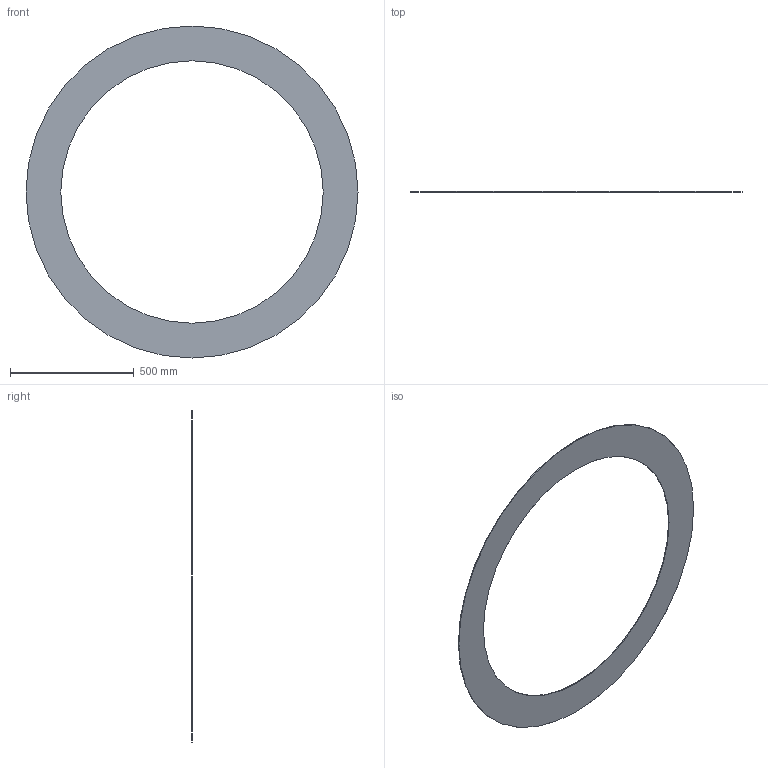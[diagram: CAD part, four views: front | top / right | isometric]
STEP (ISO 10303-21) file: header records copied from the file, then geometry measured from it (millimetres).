
FILE_DESCRIPTION(/* description */ ('Unknown'),/* implementation_level */ '2;1');
FILE_NAME(/* name */ 'GUA.1200B',/* time_stamp */ '2021-04-01T14:49:29+02:00',/* author */ ('Unknown'),/* organization */ ('Unknown'),/* preprocessor_version */ 'ST-DEVELOPER v16.7',/* originating_system */ 'Solid Edge',/* authorisation */ 'Unknown');
FILE_SCHEMA (('AUTOMOTIVE_DESIGN {1 0 10303 214 3 1 1}'));
Length unit declared in the file: millimetre
Products named in the file (1): GUA.1200B
Bounding box: 1341 x 3 x 1341 mm (x, y, z)
Volume: 1589679.7 mm3; surface area: 1082415.3 mm2
Topology: 1 solids, 1 shells, 4 faces, 6 edges, 4 vertices
Faces by surface type: cylinder 2, plane 2
Full cylindrical faces by diameter (mm): 1060 x1, 1341 x1
Entity records: 118 total; most frequent: DIRECTION 18, CARTESIAN_POINT 13, AXIS2_PLACEMENT_3D 9, ORIENTED_EDGE 8, EDGE_LOOP 8, FACE_BOUND 8, EDGE_CURVE 4, VERTEX_POINT 4
